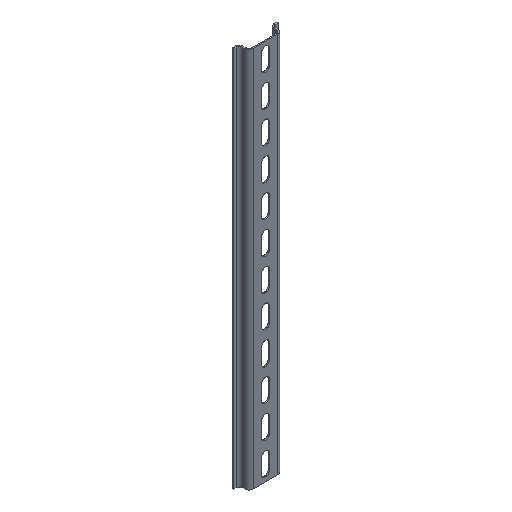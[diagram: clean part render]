
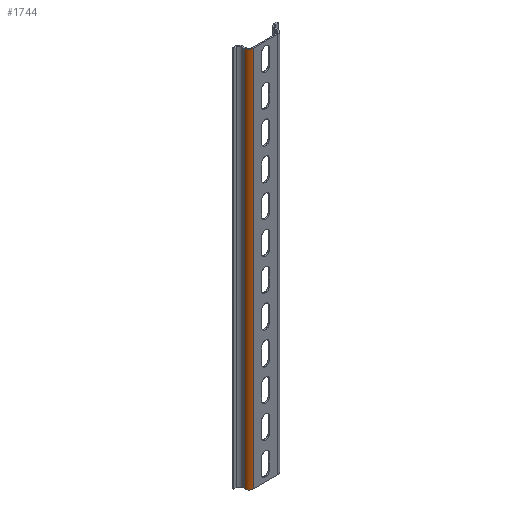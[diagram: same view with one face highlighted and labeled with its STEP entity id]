
A CAD part, isometric view. The second image highlights one B-rep face of the part: STEP entity #1744.
In plain terms, the highlighted cylindrical face has radius 3.5 mm (diameter 7 mm), a partial arc.
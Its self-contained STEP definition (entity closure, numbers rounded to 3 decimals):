
#184 = DIRECTION ( 'NONE',  ( 0., 0., -1. ) ) ;
#254 = ORIENTED_EDGE ( 'NONE', *, *, #2528, .F. ) ;
#359 = LINE ( 'NONE', #1411, #428 ) ;
#428 = VECTOR ( 'NONE', #2125, 1000. ) ;
#440 = VERTEX_POINT ( 'NONE', #749 ) ;
#469 = FACE_OUTER_BOUND ( 'NONE', #1444, .T. ) ;
#482 = VERTEX_POINT ( 'NONE', #1264 ) ;
#682 = EDGE_CURVE ( 'NONE', #440, #1294, #359, .T. ) ;
#749 = CARTESIAN_POINT ( 'NONE',  ( -9.6, -1., 300. ) ) ;
#844 = DIRECTION ( 'NONE',  ( 0., 0., -1. ) ) ;
#875 = AXIS2_PLACEMENT_3D ( 'NONE', #2441, #2431, #2183 ) ;
#911 = CIRCLE ( 'NONE', #1901, 3.5 ) ;
#937 = CARTESIAN_POINT ( 'NONE',  ( -9.6, 2.5, 300. ) ) ;
#1067 = CARTESIAN_POINT ( 'NONE',  ( -13.1, 2.5, 300. ) ) ;
#1136 = DIRECTION ( 'NONE',  ( 0., 0., -1. ) ) ;
#1197 = EDGE_CURVE ( 'NONE', #2217, #482, #2777, .T. ) ;
#1264 = CARTESIAN_POINT ( 'NONE',  ( -13.1, 2.5, 0. ) ) ;
#1294 = VERTEX_POINT ( 'NONE', #2348 ) ;
#1411 = CARTESIAN_POINT ( 'NONE',  ( -9.6, -1., 300. ) ) ;
#1444 = EDGE_LOOP ( 'NONE', ( #254, #2862, #1678, #2077 ) ) ;
#1625 = AXIS2_PLACEMENT_3D ( 'NONE', #937, #184, #1832 ) ;
#1678 = ORIENTED_EDGE ( 'NONE', *, *, #2059, .T. ) ;
#1684 = CIRCLE ( 'NONE', #875, 3.5 ) ;
#1744 = ADVANCED_FACE ( 'NONE', ( #469 ), #2962, .T. ) ;
#1832 = DIRECTION ( 'NONE',  ( -1., 0., 0. ) ) ;
#1876 = VECTOR ( 'NONE', #1136, 1000. ) ;
#1901 = AXIS2_PLACEMENT_3D ( 'NONE', #2524, #844, #2584 ) ;
#2059 = EDGE_CURVE ( 'NONE', #440, #2217, #911, .T. ) ;
#2077 = ORIENTED_EDGE ( 'NONE', *, *, #1197, .T. ) ;
#2125 = DIRECTION ( 'NONE',  ( 0., 0., -1. ) ) ;
#2183 = DIRECTION ( 'NONE',  ( 1., 0., 0. ) ) ;
#2217 = VERTEX_POINT ( 'NONE', #1067 ) ;
#2348 = CARTESIAN_POINT ( 'NONE',  ( -9.6, -1., 0. ) ) ;
#2431 = DIRECTION ( 'NONE',  ( 0., 0., -1. ) ) ;
#2441 = CARTESIAN_POINT ( 'NONE',  ( -9.6, 2.5, 0. ) ) ;
#2524 = CARTESIAN_POINT ( 'NONE',  ( -9.6, 2.5, 300. ) ) ;
#2528 = EDGE_CURVE ( 'NONE', #1294, #482, #1684, .T. ) ;
#2584 = DIRECTION ( 'NONE',  ( 1., 0., 0. ) ) ;
#2777 = LINE ( 'NONE', #3038, #1876 ) ;
#2862 = ORIENTED_EDGE ( 'NONE', *, *, #682, .F. ) ;
#2962 = CYLINDRICAL_SURFACE ( 'NONE', #1625, 3.5 ) ;
#3038 = CARTESIAN_POINT ( 'NONE',  ( -13.1, 2.5, 300. ) ) ;
